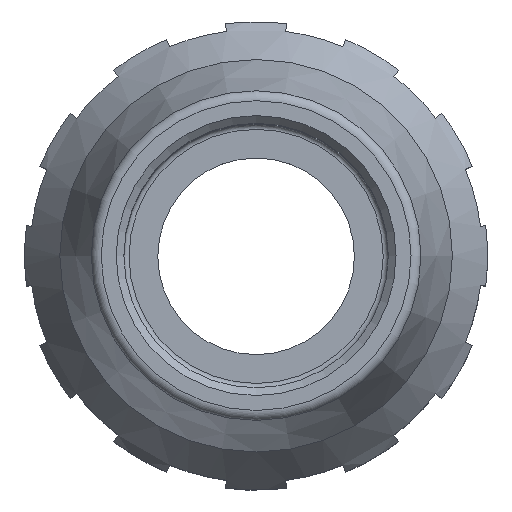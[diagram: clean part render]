
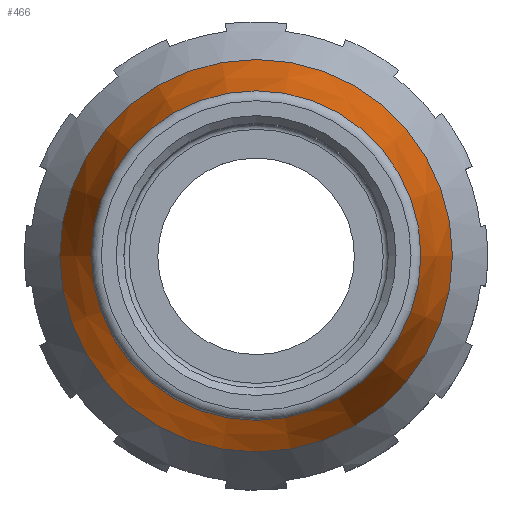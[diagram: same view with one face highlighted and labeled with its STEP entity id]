
A CAD part, top view. The second image highlights one B-rep face of the part: STEP entity #466.
In plain terms, the highlighted conical face has half-angle 15.392 degrees and reference radius 16.324 mm.
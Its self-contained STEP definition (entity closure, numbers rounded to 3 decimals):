
#466 = ADVANCED_FACE( '', ( #1020, #1021 ), #1022, .T. );
#1020 = FACE_OUTER_BOUND( '', #2145, .T. );
#1021 = FACE_BOUND( '', #2146, .T. );
#1022 = CONICAL_SURFACE( '', #2147, 16.324, 0.269 );
#2145 = EDGE_LOOP( '', ( #3808 ) );
#2146 = EDGE_LOOP( '', ( #3809 ) );
#2147 = AXIS2_PLACEMENT_3D( '', #3810, #3811, #3812 );
#3808 = ORIENTED_EDGE( '', *, *, #4961, .T. );
#3809 = ORIENTED_EDGE( '', *, *, #4997, .F. );
#3810 = CARTESIAN_POINT( '', ( 0., 0., 10.474 ) );
#3811 = DIRECTION( '', ( 0., 0., -1. ) );
#3812 = DIRECTION( '', ( -1., 0., 0. ) );
#4961 = EDGE_CURVE( '', #5864, #5864, #5865, .T. );
#4997 = EDGE_CURVE( '', #5910, #5910, #5911, .T. );
#5864 = VERTEX_POINT( '', #7619 );
#5865 = CIRCLE( '', #7620, 19.077 );
#5910 = VERTEX_POINT( '', #7677 );
#5911 = CIRCLE( '', #7678, 16.018 );
#7619 = CARTESIAN_POINT( '', ( -19.077, 0., 0.472 ) );
#7620 = AXIS2_PLACEMENT_3D( '', #8674, #8675, #8676 );
#7677 = CARTESIAN_POINT( '', ( 16.018, 0., 11.585 ) );
#7678 = AXIS2_PLACEMENT_3D( '', #8716, #8717, #8718 );
#8674 = CARTESIAN_POINT( '', ( 0., 0., 0.472 ) );
#8675 = DIRECTION( '', ( 0., 0., 1. ) );
#8676 = DIRECTION( '', ( -1., 0., 0. ) );
#8716 = CARTESIAN_POINT( '', ( 0., 0., 11.585 ) );
#8717 = DIRECTION( '', ( 0., 0., 1. ) );
#8718 = DIRECTION( '', ( 1., 0., 0. ) );
